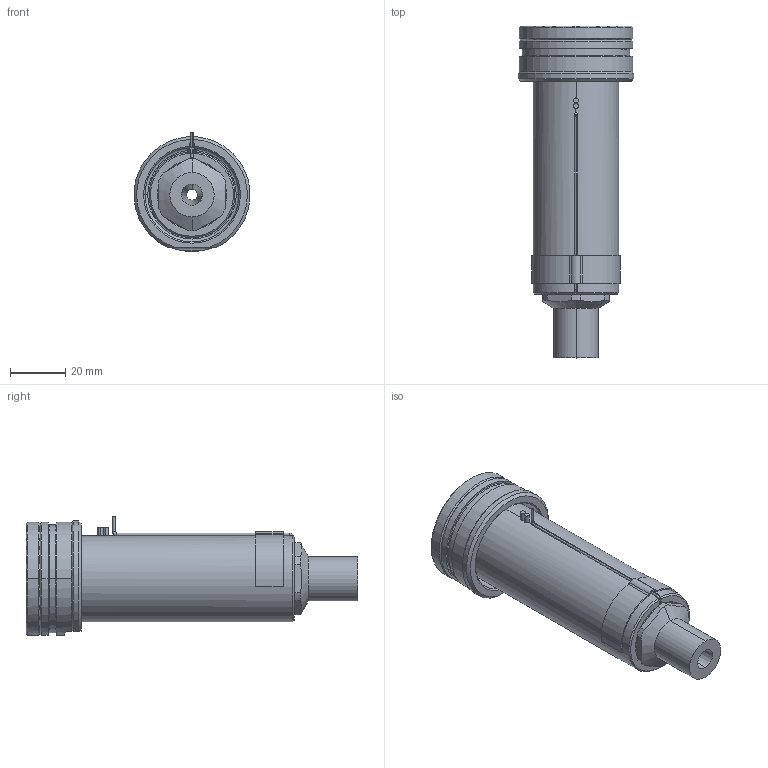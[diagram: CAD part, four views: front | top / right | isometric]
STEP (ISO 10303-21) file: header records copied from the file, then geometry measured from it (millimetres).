
FILE_DESCRIPTION((''),'2;1');
FILE_NAME('EO12_VG-ST_ESG_090_SW','2024-02-19T12:52:39',('sundharh'),(''),'CREO PARAMETRIC BY PTC INC, 2023154','CREO PARAMETRIC BY PTC INC, 2023154','');
FILE_SCHEMA(('CONFIG_CONTROL_DESIGN'));
Length unit declared in the file: millimetre
Products named in the file (1): EO12_VG-ST_ESG_090_SW
Bounding box: 41.85 x 120 x 43 mm (x, y, z)
Volume: 76471.8 mm3; surface area: 22187 mm2
Topology: 2 solids, 3 shells, 182 faces, 463 edges, 284 vertices
Faces by surface type: cylinder 65, plane 46, cone 37, torus 27, bspline 5, sphere 2
Entity records: 6249 total; most frequent: CARTESIAN_POINT 1742, DIRECTION 994, ORIENTED_EDGE 922, EDGE_CURVE 461, AXIS2_PLACEMENT_3D 415, VERTEX_POINT 284, CIRCLE 238, EDGE_LOOP 197
